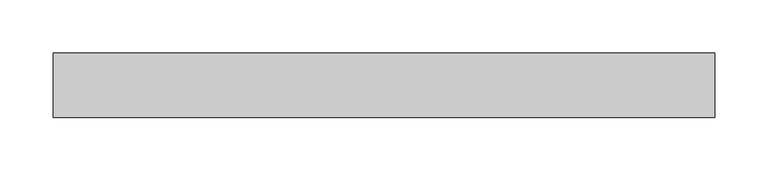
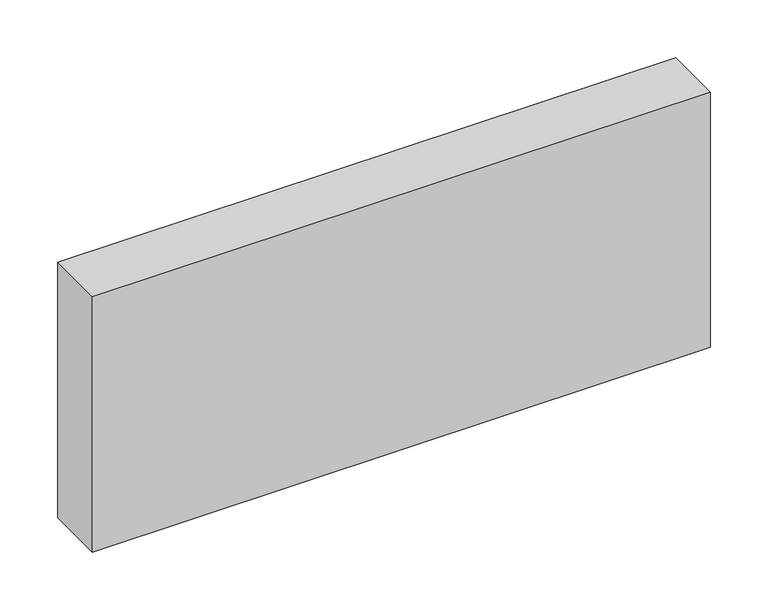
"""IFC4 building model written with IfcOpenShell, lengths in millimetres: plate geometry, Системная панель : Алюкобонд серый."""

import ifcopenshell
import ifcopenshell.guid

model = None  # the IFC model being written
_history = None  # IfcOwnerHistory: only IFC2X3 demands one
_inside = {}  # id of a spatial element -> (the spatial element, [elements in it])
_under = {}  # id of a project, library or spatial element -> (it, [spatial elements below it])
_declared = {}  # id of a project -> (the project, [libraries it declares])
_typed = {}  # id of a type object -> (the type object, [elements of that type])
_made_of = {}  # id of a material, layer set ... -> (it, [elements and type objects made of it])


def new_model(schema):
    """Start an empty IFC model of exactly this schema.

    Asked for "IFC4X3", IfcOpenShell would pick the latest addendum, in which some entities
    have other attributes; the version numbers below select the first issue.
    IFC2X3 requires an IfcOwnerHistory on every rooted entity: one is made here for all.
    """
    global model, _history
    if schema == "IFC4X3":
        model = ifcopenshell.file(schema_version=(4, 3, 0, 0))
    else:
        model = ifcopenshell.file(schema=schema)
    _inside.clear()
    _under.clear()
    _declared.clear()
    _typed.clear()
    _made_of.clear()
    _history = None
    if model.schema == "IFC2X3":
        org = make("IfcOrganization", Name="unknown")
        user = make(
            "IfcPersonAndOrganization",
            ThePerson=make("IfcPerson", FamilyName="unknown"),
            TheOrganization=org,
        )
        app = make(
            "IfcApplication",
            ApplicationDeveloper=org,
            Version="unknown",
            ApplicationFullName="unknown",
            ApplicationIdentifier="unknown",
        )
        _history = make(
            "IfcOwnerHistory",
            OwningUser=user,
            OwningApplication=app,
            ChangeAction="ADDED",
            CreationDate=0,
        )
    return model


def make(cls, **values):
    """One entity of the class cls with the attributes given. An attribute that is None is left unset."""
    return model.create_entity(
        cls, **{name: value for name, value in values.items() if value is not None}
    )


def rooted(cls, **values):
    """An entity with a GlobalId (a new one), such as an element, a storey or a relation."""
    return make(cls, GlobalId=ifcopenshell.guid.new(), OwnerHistory=_history, **values)


def si_unit(unit_type, name, prefix=None):
    """IfcSIUnit, for example si_unit("LENGTHUNIT", "METRE", prefix="MILLI")."""
    return make("IfcSIUnit", UnitType=unit_type, Prefix=prefix, Name=name)


def assignment(units):
    """IfcUnitAssignment: the units of a project."""
    return None if units is None else make("IfcUnitAssignment", Units=units)


def point(xyz):
    """IfcCartesianPoint."""
    return None if xyz is None else make("IfcCartesianPoint", Coordinates=xyz)


def direction(xyz):
    """IfcDirection."""
    return None if xyz is None else make("IfcDirection", DirectionRatios=xyz)


def frame(location, z_axis=None, x_axis=None):
    """IfcAxis2Placement3D, a coordinate frame: its origin and axes. An axis left out is left unset."""
    return make(
        "IfcAxis2Placement3D",
        Location=point(location),
        Axis=direction(z_axis),
        RefDirection=direction(x_axis),
    )


def origin():
    """The frame at (0, 0, 0) with its axes left unset."""
    return frame((0.0, 0.0, 0.0))


def origin_with_axes():
    """The frame at (0, 0, 0) with the z axis (0, 0, 1) and the x axis (1, 0, 0) written out."""
    return frame((0.0, 0.0, 0.0), z_axis=(0.0, 0.0, 1.0), x_axis=(1.0, 0.0, 0.0))


def place(relative_to, where):
    """IfcLocalPlacement: puts the frame where relative to a parent placement (None: the world)."""
    return make(
        "IfcLocalPlacement", PlacementRelTo=relative_to, RelativePlacement=where
    )


def context(
    kind, dimensions, precision=None, world=None, true_north=None, identifier=None
):
    """IfcGeometricRepresentationContext, for example the 3D "Model" context."""
    return make(
        "IfcGeometricRepresentationContext",
        ContextIdentifier=identifier,
        ContextType=kind,
        CoordinateSpaceDimension=dimensions,
        Precision=precision,
        WorldCoordinateSystem=world,
        TrueNorth=true_north,
    )


def project(units=None, contexts=None):
    """IfcProject with its units and contexts."""
    return rooted(
        "IfcProject",
        Name="project",
        RepresentationContexts=contexts,
        UnitsInContext=assignment(units),
    )


def spatial(cls, under=None, at=None, **own):
    """A site, building, storey or space (cls), placed at a placement, below another one or the project."""
    s = rooted(cls, ObjectPlacement=at, **own)
    if under is not None:
        _under.setdefault(under.id(), (under, []))[1].append(s)
    return s


def polyline(points):
    """IfcPolyline through the points."""
    return make("IfcPolyline", Points=[point(p) for p in points])


def outline(outer, holes=None, kind="AREA"):
    """IfcArbitraryClosedProfileDef: a profile drawn as a closed curve; with holes, ...WithVoids."""
    if holes is None:
        return make("IfcArbitraryClosedProfileDef", ProfileType=kind, OuterCurve=outer)
    return make(
        "IfcArbitraryProfileDefWithVoids",
        ProfileType=kind,
        OuterCurve=outer,
        InnerCurves=holes,
    )


def extrude(swept, where, along, depth):
    """IfcExtrudedAreaSolid: the profile swept, set in the frame where, extruded along a direction by depth."""
    return make(
        "IfcExtrudedAreaSolid",
        SweptArea=swept,
        Position=where,
        ExtrudedDirection=direction(along),
        Depth=depth,
    )


def shape(context_of_items, identifier, shape_type, items):
    """IfcShapeRepresentation: the items that make up one representation, for example the "Body"."""
    return make(
        "IfcShapeRepresentation",
        ContextOfItems=context_of_items,
        RepresentationIdentifier=identifier,
        RepresentationType=shape_type,
        Items=items,
    )


def source(mapping_origin, context_of_items, identifier, shape_type, items):
    """IfcRepresentationMap: a shape defined once, which mapped items show again and again."""
    return make(
        "IfcRepresentationMap",
        MappingOrigin=mapping_origin,
        MappedRepresentation=shape(context_of_items, identifier, shape_type, items),
    )


def transform(
    local_origin,
    x_axis=None,
    y_axis=None,
    z_axis=None,
    scale=None,
    scale2=None,
    scale3=None,
    uniform=True,
):
    """IfcCartesianTransformationOperator3D, or its non-uniform kind. x_axis, y_axis, z_axis: its Axis1, 2, 3."""
    if uniform:
        return make(
            "IfcCartesianTransformationOperator3D",
            Axis1=direction(x_axis),
            Axis2=direction(y_axis),
            LocalOrigin=point(local_origin),
            Scale=scale,
            Axis3=direction(z_axis),
        )
    return make(
        "IfcCartesianTransformationOperator3DnonUniform",
        Axis1=direction(x_axis),
        Axis2=direction(y_axis),
        LocalOrigin=point(local_origin),
        Scale=scale,
        Axis3=direction(z_axis),
        Scale2=scale2,
        Scale3=scale3,
    )


def mapped(mapping_source, mapping_target):
    """IfcMappedItem: shows the shape of a source again, moved by a transform."""
    return make(
        "IfcMappedItem", MappingSource=mapping_source, MappingTarget=mapping_target
    )


def made_of(thing, what):
    """Note that an element or type object is made of a material, layer set ...; save() writes the relation."""
    if what is not None:
        _made_of.setdefault(what.id(), (what, []))[1].append(thing)
    return thing


def element(
    cls,
    number,
    at=None,
    inside=None,
    cuts=None,
    type_object=None,
    material=None,
    context=None,
    identifier="Body",
    shape_type=None,
    held_by="IfcProductDefinitionShape",
    body=None,
    shapes=None,
    **own,
):
    """One element of the class cls, such as IfcWall. Its Tag is "e" and its number.

    at: its placement. inside: the storey or other place that contains it. cuts: it is an
    opening in that element (IfcRelVoidsElement). A single representation is given by context,
    identifier, shape_type and body (its items); several are given by shapes. held_by: the class
    of the entity that holds the representations. save() writes the other relations.
    """
    e = rooted(cls, Tag="e%d" % number, ObjectPlacement=at, **own)
    if body is not None:
        shapes = [shape(context, identifier, shape_type, body)]
    if shapes is not None:
        e.Representation = make(held_by, Representations=shapes)
    if inside is not None:
        _inside.setdefault(inside.id(), (inside, []))[1].append(e)
    if cuts is not None:
        rooted(
            "IfcRelVoidsElement", RelatingBuildingElement=cuts, RelatedOpeningElement=e
        )
    if type_object is not None:
        _typed.setdefault(type_object.id(), (type_object, []))[1].append(e)
    return made_of(e, material)


def aggregate(whole, parts):
    """IfcRelAggregates: a whole, such as a stair, and the parts it consists of."""
    return rooted("IfcRelAggregates", RelatingObject=whole, RelatedObjects=parts)


def save(model, path):
    """Write the relations noted so far, then the file.

    IfcRelAggregates (storeys below a building ...), IfcRelContainedInSpatialStructure (elements
    in a storey), IfcRelDefinesByType, IfcRelAssociatesMaterial and IfcRelDeclares: one each for
    every whole, place, type object, material and project.
    """
    for whole, parts in _under.values():
        aggregate(whole, parts)
    for where, things in _inside.values():
        rooted(
            "IfcRelContainedInSpatialStructure",
            RelatedElements=things,
            RelatingStructure=where,
        )
    for kind, things in _typed.values():
        rooted("IfcRelDefinesByType", RelatedObjects=things, RelatingType=kind)
    for what, things in _made_of.values():
        rooted("IfcRelAssociatesMaterial", RelatedObjects=things, RelatingMaterial=what)
    for by, libraries in _declared.values():
        rooted("IfcRelDeclares", RelatingContext=by, RelatedDefinitions=libraries)
    model.write(path)


def plate_8054375e(model_context):
    return source(origin(), model_context, "Body", "SweptSolid", [
        extrude(outline(polyline([(309.0, -10.5), (-309.0, -10.5), (-309.0, 49.5), (309.0, 49.5), (309.0, -10.5)])), origin_with_axes(), (0.0, 0.0, 1.0), 270.0),
    ])


if __name__ == "__main__":
    model = new_model("IFC4")
    model_context = context("Model", 3, world=origin())
    ifc_project = project(units=[si_unit("LENGTHUNIT", "METRE", prefix="MILLI")], contexts=[model_context])
    site = spatial("IfcSite", under=ifc_project)
    building = spatial("IfcBuilding", under=site)
    placement = place(None, origin())
    plate_shape = plate_8054375e(model_context)
    element("IfcPlate", 1, ObjectType="Системная панель : Алюкобонд серый", at=placement, inside=building, context=model_context, shape_type="MappedRepresentation", body=[
        mapped(plate_shape, transform((0.0, 0.0, 0.0), x_axis=(1.0, 0.0, 0.0), y_axis=(0.0, 1.0, 0.0), z_axis=(0.0, 0.0, 1.0))),
    ])
    save(model, "model.ifc")
